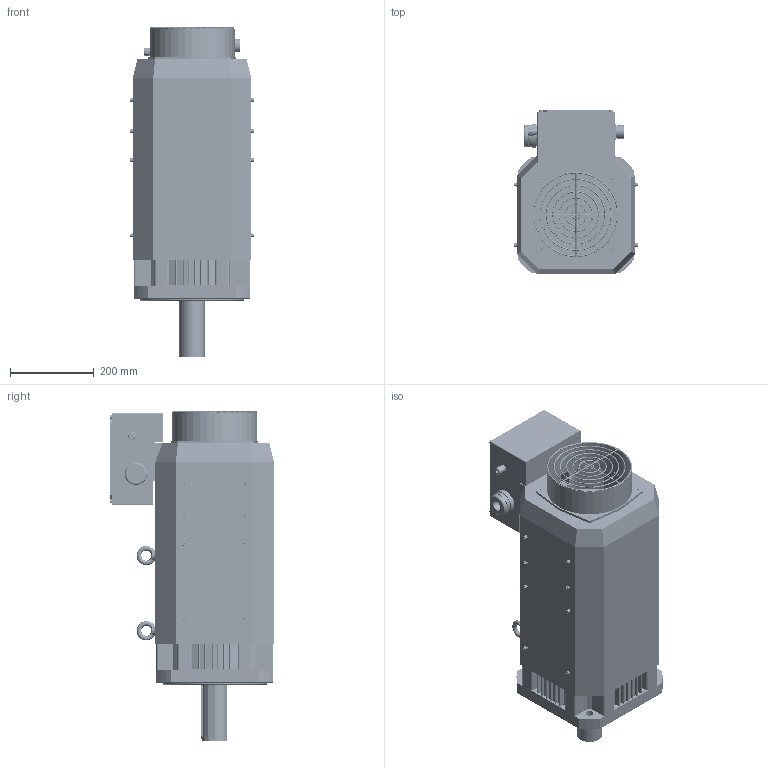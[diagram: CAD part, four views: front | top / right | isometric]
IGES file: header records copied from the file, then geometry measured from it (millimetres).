
Start section: SolidWorks IGES file using analytic representation for surfaces
Bounding box: 298.6 x 393 x 791.5 mm (x, y, z)
Surface area: 2879434.2 mm2 (no closed solid volume)
Topology: 0 solids, 0 shells, 2399 faces, 35556 edges, 35412 vertices
Faces by surface type: bspline 1272, revolution 1127
